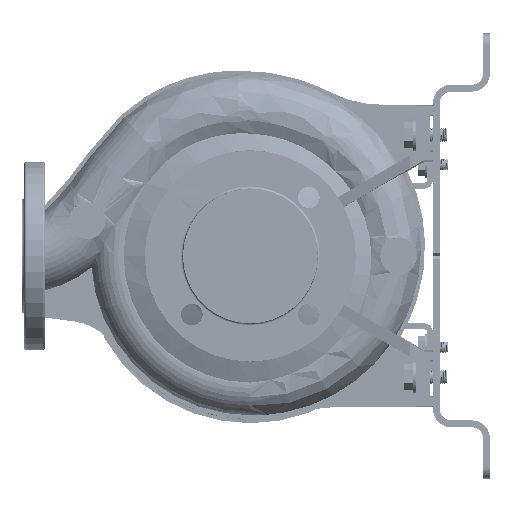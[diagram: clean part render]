
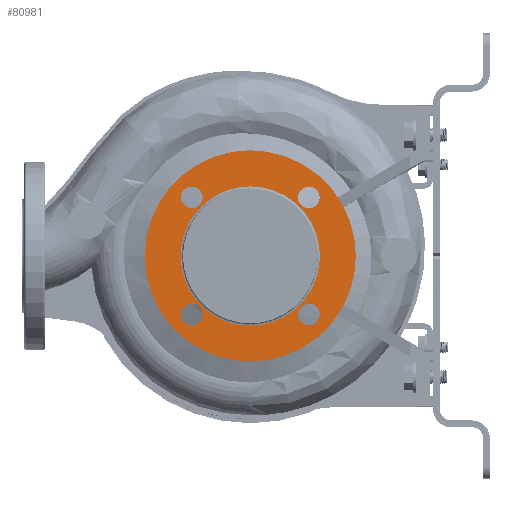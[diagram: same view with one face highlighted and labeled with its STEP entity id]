
A CAD part, left-side view. The second image highlights one B-rep face of the part: STEP entity #80981.
In plain terms, the highlighted planar face has unit normal (-1, 0, 0).
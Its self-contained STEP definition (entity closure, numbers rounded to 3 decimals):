
#2473 = AXIS2_PLACEMENT_3D ( 'NONE', #62606, #5114, #119182 ) ;
#5093 = AXIS2_PLACEMENT_3D ( 'NONE', #59815, #45924, #114535 ) ;
#5114 = DIRECTION ( 'NONE',  ( -1., 0., 0. ) ) ;
#5747 = DIRECTION ( 'NONE',  ( 0., -1., 0. ) ) ;
#10970 = EDGE_CURVE ( 'NONE', #70586, #140784, #61687, .T. ) ;
#11056 = CIRCLE ( 'NONE', #31737, 9.5 ) ;
#17932 = DIRECTION ( 'NONE',  ( 0., 1., 0. ) ) ;
#18397 = ORIENTED_EDGE ( 'NONE', *, *, #59661, .T. ) ;
#19988 = CIRCLE ( 'NONE', #147294, 9.5 ) ;
#24550 = CARTESIAN_POINT ( 'NONE',  ( -98., -60.765, -51.265 ) ) ;
#24983 = ORIENTED_EDGE ( 'NONE', *, *, #10970, .F. ) ;
#25437 = DIRECTION ( 'NONE',  ( 0., 0., 1. ) ) ;
#30182 = VERTEX_POINT ( 'NONE', #110618 ) ;
#31737 = AXIS2_PLACEMENT_3D ( 'NONE', #126283, #182842, #55803 ) ;
#32876 = CIRCLE ( 'NONE', #136500, 9.5 ) ;
#33271 = DIRECTION ( 'NONE',  ( 0., -1., 0. ) ) ;
#39063 = EDGE_CURVE ( 'NONE', #116006, #30182, #80271, .T. ) ;
#39265 = CIRCLE ( 'NONE', #163527, 9.5 ) ;
#41270 = AXIS2_PLACEMENT_3D ( 'NONE', #121149, #79401, #107237 ) ;
#43839 = ORIENTED_EDGE ( 'NONE', *, *, #169515, .F. ) ;
#44815 = AXIS2_PLACEMENT_3D ( 'NONE', #167800, #67710, #53776 ) ;
#45924 = DIRECTION ( 'NONE',  ( -1., 0., 0. ) ) ;
#46786 = ORIENTED_EDGE ( 'NONE', *, *, #107095, .F. ) ;
#46833 = DIRECTION ( 'NONE',  ( 0., 1., 0. ) ) ;
#53776 = DIRECTION ( 'NONE',  ( 0., 0., -1. ) ) ;
#55803 = DIRECTION ( 'NONE',  ( 0., 0., -1. ) ) ;
#59661 = EDGE_CURVE ( 'NONE', #61891, #95539, #172976, .T. ) ;
#59815 = CARTESIAN_POINT ( 'NONE',  ( -98., 0., 0. ) ) ;
#60447 = AXIS2_PLACEMENT_3D ( 'NONE', #103744, #160290, #33271 ) ;
#61687 = CIRCLE ( 'NONE', #2473, 61. ) ;
#61891 = VERTEX_POINT ( 'NONE', #106833 ) ;
#62606 = CARTESIAN_POINT ( 'NONE',  ( -98., 0., 0. ) ) ;
#64531 = DIRECTION ( 'NONE',  ( 0., 0., 1. ) ) ;
#65153 = CARTESIAN_POINT ( 'NONE',  ( -98., -51.265, -51.265 ) ) ;
#65260 = CARTESIAN_POINT ( 'NONE',  ( -98., 41.765, -51.265 ) ) ;
#65536 = ORIENTED_EDGE ( 'NONE', *, *, #129068, .F. ) ;
#66791 = EDGE_LOOP ( 'NONE', ( #65536, #46786 ) ) ;
#67710 = DIRECTION ( 'NONE',  ( -1., 0., 0. ) ) ;
#70586 = VERTEX_POINT ( 'NONE', #156723 ) ;
#72641 = EDGE_CURVE ( 'NONE', #109169, #149953, #136152, .T. ) ;
#73559 = EDGE_LOOP ( 'NONE', ( #181153, #18397 ) ) ;
#76862 = CIRCLE ( 'NONE', #41270, 61. ) ;
#78240 = EDGE_LOOP ( 'NONE', ( #43839, #24983 ) ) ;
#78943 = AXIS2_PLACEMENT_3D ( 'NONE', #138672, #122926, #64531 ) ;
#79039 = EDGE_CURVE ( 'NONE', #148892, #114549, #39265, .T. ) ;
#79401 = DIRECTION ( 'NONE',  ( -1., 0., 0. ) ) ;
#80271 = CIRCLE ( 'NONE', #44815, 9.5 ) ;
#80981 = ADVANCED_FACE ( 'NONE', ( #115315, #157941, #103238, #87498, #88414, #85668 ), #142207, .F. ) ;
#84603 = VERTEX_POINT ( 'NONE', #65260 ) ;
#85668 = FACE_OUTER_BOUND ( 'NONE', #73559, .T. ) ;
#87498 = FACE_BOUND ( 'NONE', #132478, .T. ) ;
#88414 = FACE_BOUND ( 'NONE', #78240, .T. ) ;
#90097 = ORIENTED_EDGE ( 'NONE', *, *, #150870, .F. ) ;
#92381 = CARTESIAN_POINT ( 'NONE',  ( -98., -92.5, 0. ) ) ;
#95539 = VERTEX_POINT ( 'NONE', #92381 ) ;
#97635 = AXIS2_PLACEMENT_3D ( 'NONE', #118909, #148519, #5747 ) ;
#97949 = CARTESIAN_POINT ( 'NONE',  ( -98., 60.765, -51.265 ) ) ;
#101943 = EDGE_CURVE ( 'NONE', #30182, #116006, #11056, .T. ) ;
#102656 = CARTESIAN_POINT ( 'NONE',  ( -98., -60.765, 51.265 ) ) ;
#103238 = FACE_BOUND ( 'NONE', #66791, .T. ) ;
#103744 = CARTESIAN_POINT ( 'NONE',  ( -98., 0., 0. ) ) ;
#106833 = CARTESIAN_POINT ( 'NONE',  ( -98., 92.5, 0. ) ) ;
#107095 = EDGE_CURVE ( 'NONE', #157469, #84603, #19988, .T. ) ;
#107237 = DIRECTION ( 'NONE',  ( 0., -1., 0. ) ) ;
#109169 = VERTEX_POINT ( 'NONE', #156295 ) ;
#110618 = CARTESIAN_POINT ( 'NONE',  ( -98., -41.765, 51.265 ) ) ;
#111251 = DIRECTION ( 'NONE',  ( -1., 0., 0. ) ) ;
#114169 = DIRECTION ( 'NONE',  ( 0., 1., 0. ) ) ;
#114535 = DIRECTION ( 'NONE',  ( 0., -1., 0. ) ) ;
#114549 = VERTEX_POINT ( 'NONE', #183538 ) ;
#115315 = FACE_BOUND ( 'NONE', #161581, .T. ) ;
#115554 = ORIENTED_EDGE ( 'NONE', *, *, #39063, .F. ) ;
#116006 = VERTEX_POINT ( 'NONE', #102656 ) ;
#117486 = CIRCLE ( 'NONE', #78943, 9.5 ) ;
#118909 = CARTESIAN_POINT ( 'NONE',  ( -98., 51.265, 51.265 ) ) ;
#119182 = DIRECTION ( 'NONE',  ( 0., -1., 0. ) ) ;
#119352 = ORIENTED_EDGE ( 'NONE', *, *, #72641, .F. ) ;
#121149 = CARTESIAN_POINT ( 'NONE',  ( -98., 0., 0. ) ) ;
#122926 = DIRECTION ( 'NONE',  ( -1., 0., 0. ) ) ;
#123767 = EDGE_LOOP ( 'NONE', ( #128034, #90097 ) ) ;
#126283 = CARTESIAN_POINT ( 'NONE',  ( -98., -51.265, 51.265 ) ) ;
#127314 = AXIS2_PLACEMENT_3D ( 'NONE', #65153, #179169, #114169 ) ;
#128034 = ORIENTED_EDGE ( 'NONE', *, *, #79039, .F. ) ;
#128103 = EDGE_CURVE ( 'NONE', #95539, #61891, #132448, .T. ) ;
#129068 = EDGE_CURVE ( 'NONE', #84603, #157469, #117486, .T. ) ;
#129201 = DIRECTION ( 'NONE',  ( 1., 0., 0. ) ) ;
#130291 = CARTESIAN_POINT ( 'NONE',  ( -98., -51.265, -51.265 ) ) ;
#132448 = CIRCLE ( 'NONE', #5093, 92.5 ) ;
#132478 = EDGE_LOOP ( 'NONE', ( #137233, #119352 ) ) ;
#136152 = CIRCLE ( 'NONE', #97635, 9.5 ) ;
#136500 = AXIS2_PLACEMENT_3D ( 'NONE', #140880, #111251, #153901 ) ;
#137233 = ORIENTED_EDGE ( 'NONE', *, *, #138770, .F. ) ;
#138672 = CARTESIAN_POINT ( 'NONE',  ( -98., 51.265, -51.265 ) ) ;
#138770 = EDGE_CURVE ( 'NONE', #149953, #109169, #32876, .T. ) ;
#139703 = ORIENTED_EDGE ( 'NONE', *, *, #101943, .F. ) ;
#140100 = AXIS2_PLACEMENT_3D ( 'NONE', #144965, #129201, #17932 ) ;
#140784 = VERTEX_POINT ( 'NONE', #146197 ) ;
#140880 = CARTESIAN_POINT ( 'NONE',  ( -98., 51.265, 51.265 ) ) ;
#142207 = PLANE ( 'NONE',  #140100 ) ;
#142438 = CARTESIAN_POINT ( 'NONE',  ( -98., 41.765, 51.265 ) ) ;
#144965 = CARTESIAN_POINT ( 'NONE',  ( -98., 61., 0. ) ) ;
#146197 = CARTESIAN_POINT ( 'NONE',  ( -98., -61., 0. ) ) ;
#147294 = AXIS2_PLACEMENT_3D ( 'NONE', #179350, #152453, #25437 ) ;
#148519 = DIRECTION ( 'NONE',  ( -1., 0., 0. ) ) ;
#148892 = VERTEX_POINT ( 'NONE', #24550 ) ;
#149953 = VERTEX_POINT ( 'NONE', #142438 ) ;
#150870 = EDGE_CURVE ( 'NONE', #114549, #148892, #183570, .T. ) ;
#152453 = DIRECTION ( 'NONE',  ( -1., 0., 0. ) ) ;
#153901 = DIRECTION ( 'NONE',  ( 0., -1., 0. ) ) ;
#156295 = CARTESIAN_POINT ( 'NONE',  ( -98., 60.765, 51.265 ) ) ;
#156723 = CARTESIAN_POINT ( 'NONE',  ( -98., 61., 0. ) ) ;
#157469 = VERTEX_POINT ( 'NONE', #97949 ) ;
#157941 = FACE_BOUND ( 'NONE', #123767, .T. ) ;
#158102 = DIRECTION ( 'NONE',  ( -1., 0., 0. ) ) ;
#160290 = DIRECTION ( 'NONE',  ( -1., 0., 0. ) ) ;
#161581 = EDGE_LOOP ( 'NONE', ( #115554, #139703 ) ) ;
#163527 = AXIS2_PLACEMENT_3D ( 'NONE', #130291, #158102, #46833 ) ;
#167800 = CARTESIAN_POINT ( 'NONE',  ( -98., -51.265, 51.265 ) ) ;
#169515 = EDGE_CURVE ( 'NONE', #140784, #70586, #76862, .T. ) ;
#172976 = CIRCLE ( 'NONE', #60447, 92.5 ) ;
#179169 = DIRECTION ( 'NONE',  ( -1., 0., 0. ) ) ;
#179350 = CARTESIAN_POINT ( 'NONE',  ( -98., 51.265, -51.265 ) ) ;
#181153 = ORIENTED_EDGE ( 'NONE', *, *, #128103, .T. ) ;
#182842 = DIRECTION ( 'NONE',  ( -1., 0., 0. ) ) ;
#183538 = CARTESIAN_POINT ( 'NONE',  ( -98., -41.765, -51.265 ) ) ;
#183570 = CIRCLE ( 'NONE', #127314, 9.5 ) ;
